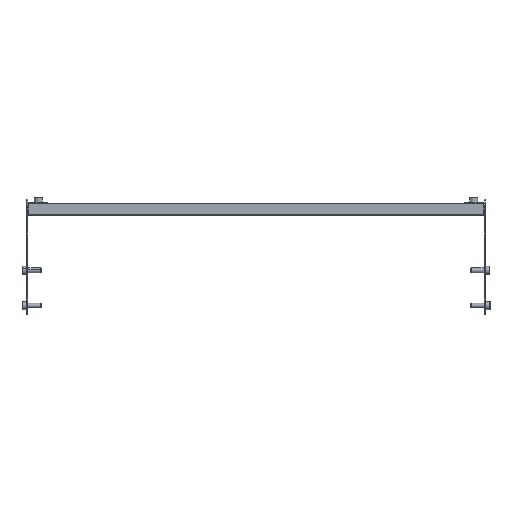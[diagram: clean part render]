
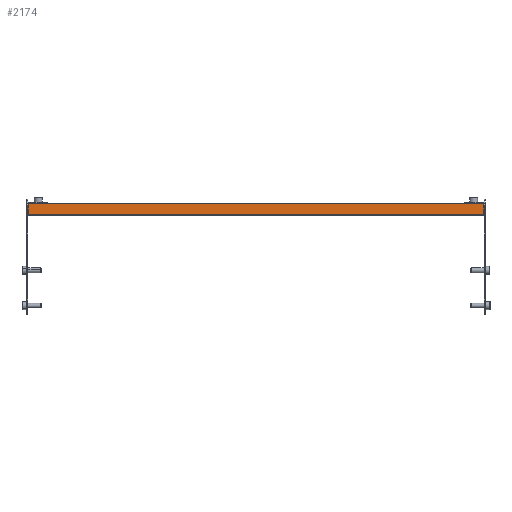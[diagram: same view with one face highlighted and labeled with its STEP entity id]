
A CAD part, front view. The second image highlights one B-rep face of the part: STEP entity #2174.
In plain terms, the highlighted planar face has unit normal (0, -1, 0) as drawn and (1, 0, 0) by its records, which use the part's own axes.
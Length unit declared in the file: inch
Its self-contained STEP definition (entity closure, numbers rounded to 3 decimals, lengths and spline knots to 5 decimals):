
#552 = CARTESIAN_POINT ( 'NONE',  ( 0.78127, 0.29528, 11.30175 ) ) ;
#734 = DIRECTION ( 'NONE',  ( 0., 0., 1. ) ) ;
#781 = LINE ( 'NONE', #7857, #2386 ) ;
#838 = EDGE_CURVE ( 'NONE', #1466, #6199, #3180, .T. ) ;
#1401 = CARTESIAN_POINT ( 'NONE',  ( 0.78127, 0.29528, -11.30175 ) ) ;
#1466 = VERTEX_POINT ( 'NONE', #6926 ) ;
#1975 = EDGE_CURVE ( 'NONE', #5603, #1466, #781, .T. ) ;
#2174 = ADVANCED_FACE ( 'NONE', ( #5308 ), #8286, .F. ) ;
#2332 = EDGE_CURVE ( 'NONE', #5603, #2815, #3089, .T. ) ;
#2386 = VECTOR ( 'NONE', #2687, 39.37008 ) ;
#2393 = VECTOR ( 'NONE', #734, 39.37008 ) ;
#2430 = DIRECTION ( 'NONE',  ( -1., 0., 0. ) ) ;
#2679 = ORIENTED_EDGE ( 'NONE', *, *, #1975, .T. ) ;
#2687 = DIRECTION ( 'NONE',  ( 0., 0., -1. ) ) ;
#2815 = VERTEX_POINT ( 'NONE', #3592 ) ;
#3089 = LINE ( 'NONE', #5831, #6752 ) ;
#3114 = EDGE_LOOP ( 'NONE', ( #4099, #2679, #5405, #5381 ) ) ;
#3180 = LINE ( 'NONE', #1401, #7715 ) ;
#3592 = CARTESIAN_POINT ( 'NONE',  ( 0.78127, 0.26528, 11.30175 ) ) ;
#4099 = ORIENTED_EDGE ( 'NONE', *, *, #2332, .F. ) ;
#4331 = DIRECTION ( 'NONE',  ( 0., 0., 1. ) ) ;
#4368 = CARTESIAN_POINT ( 'NONE',  ( 0.78127, 0.26528, -11.30175 ) ) ;
#4801 = CARTESIAN_POINT ( 'NONE',  ( 0.78127, -0.26528, 11.30175 ) ) ;
#5308 = FACE_OUTER_BOUND ( 'NONE', #3114, .T. ) ;
#5381 = ORIENTED_EDGE ( 'NONE', *, *, #6286, .T. ) ;
#5405 = ORIENTED_EDGE ( 'NONE', *, *, #838, .T. ) ;
#5603 = VERTEX_POINT ( 'NONE', #4801 ) ;
#5673 = CARTESIAN_POINT ( 'NONE',  ( 0.78127, 0.26528, 11.30175 ) ) ;
#5831 = CARTESIAN_POINT ( 'NONE',  ( 0.78127, 0.29528, 11.30175 ) ) ;
#6199 = VERTEX_POINT ( 'NONE', #4368 ) ;
#6286 = EDGE_CURVE ( 'NONE', #6199, #2815, #7157, .T. ) ;
#6343 = AXIS2_PLACEMENT_3D ( 'NONE', #552, #2430, #4331 ) ;
#6486 = DIRECTION ( 'NONE',  ( 0., 1., 0. ) ) ;
#6752 = VECTOR ( 'NONE', #6486, 39.37008 ) ;
#6926 = CARTESIAN_POINT ( 'NONE',  ( 0.78127, -0.26528, -11.30175 ) ) ;
#7157 = LINE ( 'NONE', #5673, #2393 ) ;
#7226 = DIRECTION ( 'NONE',  ( 0., 1., 0. ) ) ;
#7715 = VECTOR ( 'NONE', #7226, 39.37008 ) ;
#7857 = CARTESIAN_POINT ( 'NONE',  ( 0.78127, -0.26528, 11.30175 ) ) ;
#8286 = PLANE ( 'NONE',  #6343 ) ;
